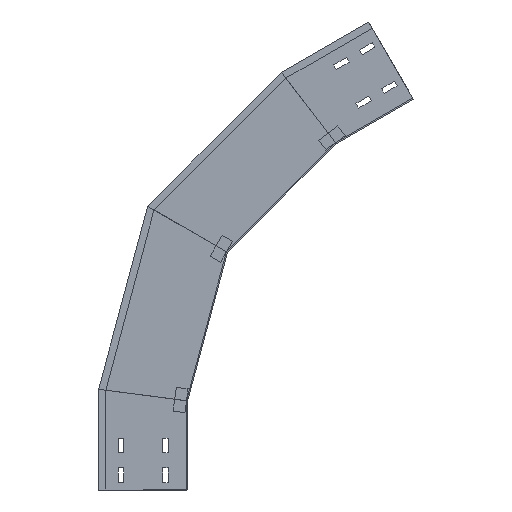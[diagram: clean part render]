
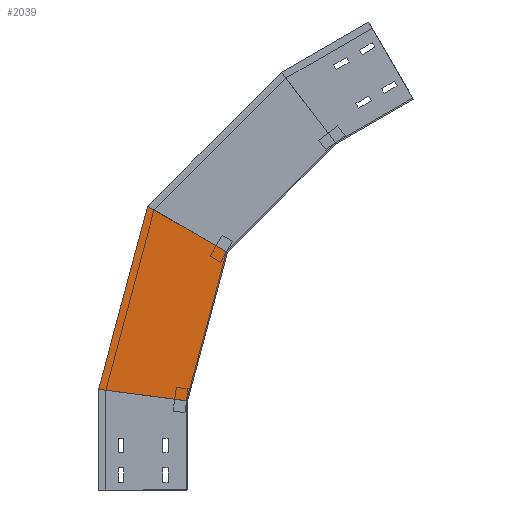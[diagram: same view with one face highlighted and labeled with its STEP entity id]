
A CAD part, left-side view. The second image highlights one B-rep face of the part: STEP entity #2039.
In plain terms, the highlighted planar face has unit normal (-1, 0, 0) as drawn and (1, 0, 0) by its records, which use the part's own axes.
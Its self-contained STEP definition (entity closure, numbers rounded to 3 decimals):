
#30 = CARTESIAN_POINT ( 'NONE',  ( 0., 70.365, 474.908 ) ) ;
#43 = CARTESIAN_POINT ( 'NONE',  ( 0., 67.452, 477.821 ) ) ;
#106 = CARTESIAN_POINT ( 'NONE',  ( 0., -67.034, 400.175 ) ) ;
#200 = EDGE_LOOP ( 'NONE', ( #1026, #891, #630, #699 ) ) ;
#260 = VECTOR ( 'NONE', #1046, 1000. ) ;
#265 = DIRECTION ( 'NONE',  ( 1., 0., 0. ) ) ;
#422 = LINE ( 'NONE', #1261, #897 ) ;
#539 = LINE ( 'NONE', #30, #260 ) ;
#542 = EDGE_CURVE ( 'NONE', #1409, #662, #1513, .T. ) ;
#590 = CARTESIAN_POINT ( 'NONE',  ( 0., -35.701, 368.842 ) ) ;
#600 = FACE_OUTER_BOUND ( 'NONE', #200, .T. ) ;
#630 = ORIENTED_EDGE ( 'NONE', *, *, #1256, .F. ) ;
#662 = VERTEX_POINT ( 'NONE', #106 ) ;
#671 = DIRECTION ( 'NONE',  ( 0., -0.707, 0.707 ) ) ;
#699 = ORIENTED_EDGE ( 'NONE', *, *, #542, .F. ) ;
#802 = CARTESIAN_POINT ( 'NONE',  ( 0., -129.979, 363.834 ) ) ;
#884 = EDGE_CURVE ( 'NONE', #1327, #1715, #422, .T. ) ;
#891 = ORIENTED_EDGE ( 'NONE', *, *, #884, .T. ) ;
#897 = VECTOR ( 'NONE', #1283, 1000. ) ;
#938 = DIRECTION ( 'NONE',  ( 0., 0., -1. ) ) ;
#958 = CARTESIAN_POINT ( 'NONE',  ( 0., -158.073, 703.345 ) ) ;
#1026 = ORIENTED_EDGE ( 'NONE', *, *, #2185, .T. ) ;
#1046 = DIRECTION ( 'NONE',  ( 0., -0.707, 0.707 ) ) ;
#1125 = PLANE ( 'NONE',  #1173 ) ;
#1173 = AXIS2_PLACEMENT_3D ( 'NONE', #590, #265, #938 ) ;
#1256 = EDGE_CURVE ( 'NONE', #662, #1715, #2105, .T. ) ;
#1261 = CARTESIAN_POINT ( 'NONE',  ( 0., -274.276, 551.906 ) ) ;
#1283 = DIRECTION ( 'NONE',  ( 0., -0.609, -0.793 ) ) ;
#1327 = VERTEX_POINT ( 'NONE', #958 ) ;
#1409 = VERTEX_POINT ( 'NONE', #43 ) ;
#1431 = CARTESIAN_POINT ( 'NONE',  ( 0., -250.175, 583.315 ) ) ;
#1513 = LINE ( 'NONE', #802, #1953 ) ;
#1715 = VERTEX_POINT ( 'NONE', #1431 ) ;
#1832 = DIRECTION ( 'NONE',  ( 0., -0.866, -0.5 ) ) ;
#1879 = CARTESIAN_POINT ( 'NONE',  ( 0., -35.701, 368.842 ) ) ;
#1953 = VECTOR ( 'NONE', #1832, 1000. ) ;
#1988 = VECTOR ( 'NONE', #671, 1000. ) ;
#2039 = ADVANCED_FACE ( 'NONE', ( #600 ), #1125, .T. ) ;
#2105 = LINE ( 'NONE', #1879, #1988 ) ;
#2185 = EDGE_CURVE ( 'NONE', #1409, #1327, #539, .T. ) ;
